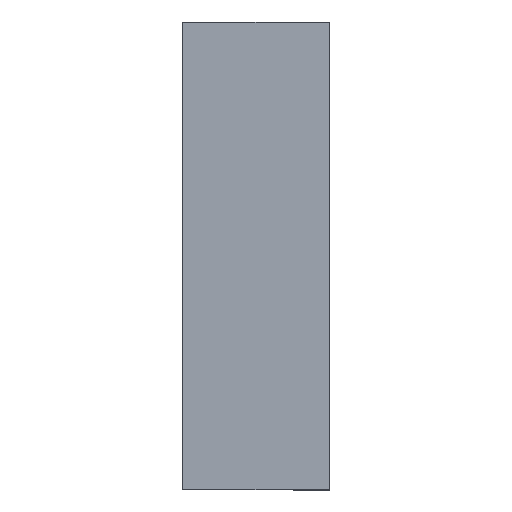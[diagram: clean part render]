
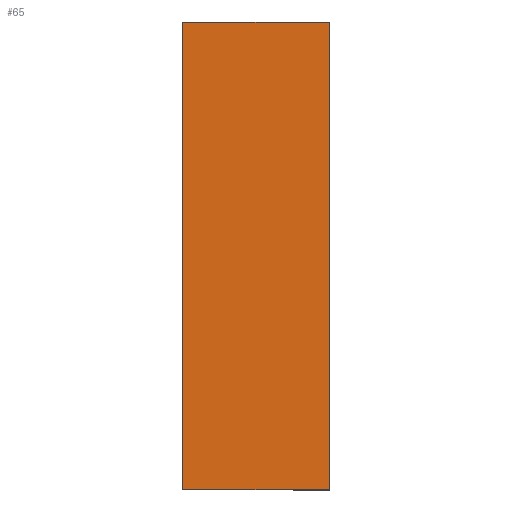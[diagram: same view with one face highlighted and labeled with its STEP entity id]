
A CAD part, top view. The second image highlights one B-rep face of the part: STEP entity #65.
In plain terms, the highlighted planar face has unit normal (0, 0, 1).
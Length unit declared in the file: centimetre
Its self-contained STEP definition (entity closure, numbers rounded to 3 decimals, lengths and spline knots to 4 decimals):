
#65=ADVANCED_FACE('',(#135),#947,.T.);
#135=FACE_OUTER_BOUND('',#205,.T.);
#205=EDGE_LOOP('',(#343,#344,#345,#346));
#343=ORIENTED_EDGE('',*,*,#590,.T.);
#344=ORIENTED_EDGE('',*,*,#583,.F.);
#345=ORIENTED_EDGE('',*,*,#581,.F.);
#346=ORIENTED_EDGE('',*,*,#589,.F.);
#581=EDGE_CURVE('',#858,#859,#725,.T.);
#583=EDGE_CURVE('',#859,#860,#727,.T.);
#589=EDGE_CURVE('',#862,#858,#733,.T.);
#590=EDGE_CURVE('',#862,#860,#734,.T.);
#725=B_SPLINE_CURVE_WITH_KNOTS('',1,(#1293,#1294),.UNSPECIFIED.,.F.,.F.,
(2,2),(0.,160.6),.UNSPECIFIED.);
#727=B_SPLINE_CURVE_WITH_KNOTS('',1,(#1297,#1298),.UNSPECIFIED.,.F.,.F.,
(2,2),(0.,50.4),.UNSPECIFIED.);
#733=B_SPLINE_CURVE_WITH_KNOTS('',1,(#1309,#1310),.UNSPECIFIED.,.F.,.F.,
(2,2),(0.,50.4),.UNSPECIFIED.);
#734=B_SPLINE_CURVE_WITH_KNOTS('',1,(#1311,#1312),.UNSPECIFIED.,.F.,.F.,
(2,2),(0.,160.6),.UNSPECIFIED.);
#858=VERTEX_POINT('',#1260);
#859=VERTEX_POINT('',#1261);
#860=VERTEX_POINT('',#1262);
#862=VERTEX_POINT('',#1264);
#947=PLANE('',#1037);
#1037=AXIS2_PLACEMENT_3D('',#1247,#1110,$);
#1110=DIRECTION('',(0.,0.,1.));
#1247=CARTESIAN_POINT('',(55.452,-16.072,8.));
#1260=CARTESIAN_POINT('',(0.,0.,8.));
#1261=CARTESIAN_POINT('',(0.,160.6,8.));
#1262=CARTESIAN_POINT('',(50.4,160.6,8.));
#1264=CARTESIAN_POINT('',(50.4,0.,8.));
#1293=CARTESIAN_POINT('',(0.,0.,8.));
#1294=CARTESIAN_POINT('',(0.,160.6,8.));
#1297=CARTESIAN_POINT('',(0.,160.6,8.));
#1298=CARTESIAN_POINT('',(50.4,160.6,8.));
#1309=CARTESIAN_POINT('',(50.4,0.,8.));
#1310=CARTESIAN_POINT('',(0.,0.,8.));
#1311=CARTESIAN_POINT('',(50.4,0.,8.));
#1312=CARTESIAN_POINT('',(50.4,160.6,8.));
